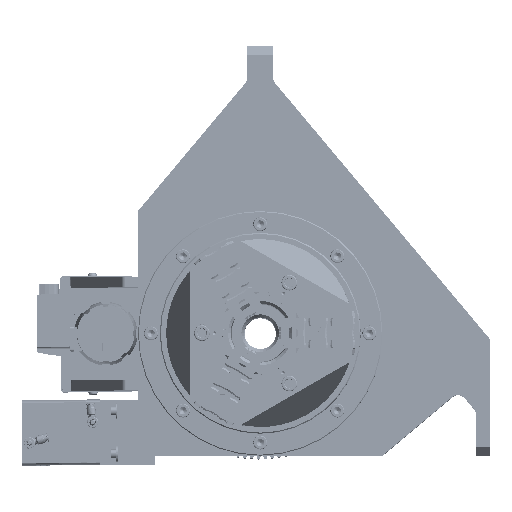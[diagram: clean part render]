
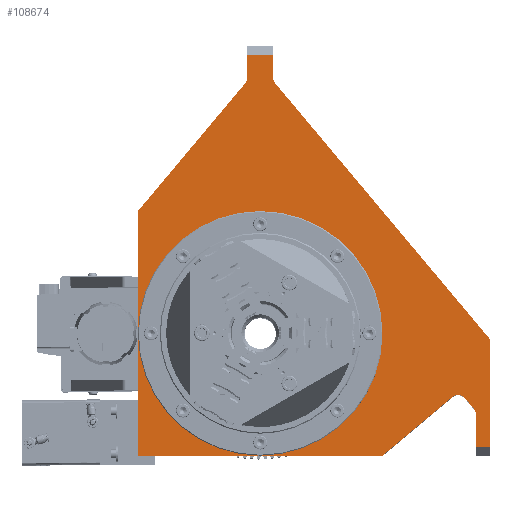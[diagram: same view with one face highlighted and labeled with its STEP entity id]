
A CAD part, top view. The second image highlights one B-rep face of the part: STEP entity #108674.
In plain terms, the highlighted planar face has unit normal (0, 0, 1).
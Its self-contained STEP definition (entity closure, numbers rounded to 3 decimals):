
#6700=FACE_BOUND('',#39267,.T.);
#6701=FACE_BOUND('',#39268,.T.);
#6702=FACE_BOUND('',#39269,.T.);
#6703=FACE_BOUND('',#39270,.T.);
#6704=FACE_BOUND('',#39271,.T.);
#6705=FACE_BOUND('',#39272,.T.);
#6706=FACE_BOUND('',#39273,.T.);
#6707=FACE_BOUND('',#39274,.T.);
#6708=FACE_BOUND('',#39275,.T.);
#10079=PLANE('',#119804);
#15114=LINE('',#187788,#22180);
#15115=LINE('',#187790,#22181);
#15116=LINE('',#187794,#22182);
#15117=LINE('',#187796,#22183);
#15118=LINE('',#187798,#22184);
#15119=LINE('',#187800,#22185);
#15120=LINE('',#187804,#22186);
#15121=LINE('',#187808,#22187);
#15122=LINE('',#187810,#22188);
#15123=LINE('',#187812,#22189);
#15124=LINE('',#187814,#22190);
#15125=LINE('',#187817,#22191);
#22180=VECTOR('',#143788,10.);
#22181=VECTOR('',#143789,10.);
#22182=VECTOR('',#143792,10.);
#22183=VECTOR('',#143793,10.);
#22184=VECTOR('',#143794,10.);
#22185=VECTOR('',#143795,10.);
#22186=VECTOR('',#143798,10.);
#22187=VECTOR('',#143801,10.);
#22188=VECTOR('',#143802,10.);
#22189=VECTOR('',#143803,10.);
#22190=VECTOR('',#143804,10.);
#22191=VECTOR('',#143807,10.);
#31248=FACE_OUTER_BOUND('',#39266,.T.);
#39266=EDGE_LOOP('',(#89877,#89878,#89879,#89880,#89881,#89882,#89883,#89884,
#89885,#89886,#89887,#89888,#89889,#89890,#89891,#89892));
#39267=EDGE_LOOP('',(#89893));
#39268=EDGE_LOOP('',(#89894));
#39269=EDGE_LOOP('',(#89895));
#39270=EDGE_LOOP('',(#89896));
#39271=EDGE_LOOP('',(#89897));
#39272=EDGE_LOOP('',(#89898));
#39273=EDGE_LOOP('',(#89899));
#39274=EDGE_LOOP('',(#89900));
#39275=EDGE_LOOP('',(#89901));
#45760=CIRCLE('',#119803,103.);
#45761=CIRCLE('',#119805,10.);
#45762=CIRCLE('',#119806,10.);
#45763=CIRCLE('',#119807,10.);
#45764=CIRCLE('',#119808,10.);
#45765=CIRCLE('',#119809,4.188);
#45766=CIRCLE('',#119810,4.188);
#45767=CIRCLE('',#119811,4.188);
#45768=CIRCLE('',#119812,4.188);
#45769=CIRCLE('',#119813,4.188);
#45770=CIRCLE('',#119814,4.188);
#45771=CIRCLE('',#119815,4.188);
#45772=CIRCLE('',#119816,4.188);
#54893=VERTEX_POINT('',#187783);
#54894=VERTEX_POINT('',#187786);
#54895=VERTEX_POINT('',#187787);
#54896=VERTEX_POINT('',#187789);
#54897=VERTEX_POINT('',#187791);
#54898=VERTEX_POINT('',#187793);
#54899=VERTEX_POINT('',#187795);
#54900=VERTEX_POINT('',#187797);
#54901=VERTEX_POINT('',#187799);
#54902=VERTEX_POINT('',#187801);
#54903=VERTEX_POINT('',#187803);
#54904=VERTEX_POINT('',#187805);
#54905=VERTEX_POINT('',#187807);
#54906=VERTEX_POINT('',#187809);
#54907=VERTEX_POINT('',#187811);
#54908=VERTEX_POINT('',#187813);
#54909=VERTEX_POINT('',#187815);
#54910=VERTEX_POINT('',#187818);
#54911=VERTEX_POINT('',#187820);
#54912=VERTEX_POINT('',#187822);
#54913=VERTEX_POINT('',#187824);
#54914=VERTEX_POINT('',#187826);
#54915=VERTEX_POINT('',#187828);
#54916=VERTEX_POINT('',#187830);
#54917=VERTEX_POINT('',#187832);
#67500=EDGE_CURVE('',#54893,#54893,#45760,.T.);
#67501=EDGE_CURVE('',#54894,#54895,#15114,.T.);
#67502=EDGE_CURVE('',#54896,#54894,#15115,.T.);
#67503=EDGE_CURVE('',#54897,#54896,#45761,.T.);
#67504=EDGE_CURVE('',#54898,#54897,#15116,.T.);
#67505=EDGE_CURVE('',#54898,#54899,#15117,.T.);
#67506=EDGE_CURVE('',#54899,#54900,#15118,.T.);
#67507=EDGE_CURVE('',#54901,#54900,#15119,.T.);
#67508=EDGE_CURVE('',#54902,#54901,#45762,.T.);
#67509=EDGE_CURVE('',#54903,#54902,#15120,.T.);
#67510=EDGE_CURVE('',#54904,#54903,#45763,.T.);
#67511=EDGE_CURVE('',#54905,#54904,#15121,.T.);
#67512=EDGE_CURVE('',#54906,#54905,#15122,.T.);
#67513=EDGE_CURVE('',#54907,#54906,#15123,.T.);
#67514=EDGE_CURVE('',#54908,#54907,#15124,.T.);
#67515=EDGE_CURVE('',#54909,#54908,#45764,.T.);
#67516=EDGE_CURVE('',#54895,#54909,#15125,.T.);
#67517=EDGE_CURVE('',#54910,#54910,#45765,.T.);
#67518=EDGE_CURVE('',#54911,#54911,#45766,.T.);
#67519=EDGE_CURVE('',#54912,#54912,#45767,.T.);
#67520=EDGE_CURVE('',#54913,#54913,#45768,.T.);
#67521=EDGE_CURVE('',#54914,#54914,#45769,.T.);
#67522=EDGE_CURVE('',#54915,#54915,#45770,.T.);
#67523=EDGE_CURVE('',#54916,#54916,#45771,.T.);
#67524=EDGE_CURVE('',#54917,#54917,#45772,.T.);
#89877=ORIENTED_EDGE('',*,*,#67501,.F.);
#89878=ORIENTED_EDGE('',*,*,#67502,.F.);
#89879=ORIENTED_EDGE('',*,*,#67503,.F.);
#89880=ORIENTED_EDGE('',*,*,#67504,.F.);
#89881=ORIENTED_EDGE('',*,*,#67505,.T.);
#89882=ORIENTED_EDGE('',*,*,#67506,.T.);
#89883=ORIENTED_EDGE('',*,*,#67507,.F.);
#89884=ORIENTED_EDGE('',*,*,#67508,.F.);
#89885=ORIENTED_EDGE('',*,*,#67509,.F.);
#89886=ORIENTED_EDGE('',*,*,#67510,.F.);
#89887=ORIENTED_EDGE('',*,*,#67511,.F.);
#89888=ORIENTED_EDGE('',*,*,#67512,.F.);
#89889=ORIENTED_EDGE('',*,*,#67513,.F.);
#89890=ORIENTED_EDGE('',*,*,#67514,.F.);
#89891=ORIENTED_EDGE('',*,*,#67515,.F.);
#89892=ORIENTED_EDGE('',*,*,#67516,.F.);
#89893=ORIENTED_EDGE('',*,*,#67517,.T.);
#89894=ORIENTED_EDGE('',*,*,#67518,.T.);
#89895=ORIENTED_EDGE('',*,*,#67519,.T.);
#89896=ORIENTED_EDGE('',*,*,#67520,.T.);
#89897=ORIENTED_EDGE('',*,*,#67521,.T.);
#89898=ORIENTED_EDGE('',*,*,#67522,.T.);
#89899=ORIENTED_EDGE('',*,*,#67523,.T.);
#89900=ORIENTED_EDGE('',*,*,#67524,.T.);
#89901=ORIENTED_EDGE('',*,*,#67500,.F.);
#108674=ADVANCED_FACE('',(#31248,#6700,#6701,#6702,#6703,#6704,#6705,#6706,
#6707,#6708),#10079,.T.);
#119803=AXIS2_PLACEMENT_3D('',#187784,#143784,#143785);
#119804=AXIS2_PLACEMENT_3D('',#187785,#143786,#143787);
#119805=AXIS2_PLACEMENT_3D('',#187792,#143790,#143791);
#119806=AXIS2_PLACEMENT_3D('',#187802,#143796,#143797);
#119807=AXIS2_PLACEMENT_3D('',#187806,#143799,#143800);
#119808=AXIS2_PLACEMENT_3D('',#187816,#143805,#143806);
#119809=AXIS2_PLACEMENT_3D('',#187819,#143808,#143809);
#119810=AXIS2_PLACEMENT_3D('',#187821,#143810,#143811);
#119811=AXIS2_PLACEMENT_3D('',#187823,#143812,#143813);
#119812=AXIS2_PLACEMENT_3D('',#187825,#143814,#143815);
#119813=AXIS2_PLACEMENT_3D('',#187827,#143816,#143817);
#119814=AXIS2_PLACEMENT_3D('',#187829,#143818,#143819);
#119815=AXIS2_PLACEMENT_3D('',#187831,#143820,#143821);
#119816=AXIS2_PLACEMENT_3D('',#187833,#143822,#143823);
#143784=DIRECTION('center_axis',(0.,0.,1.));
#143785=DIRECTION('ref_axis',(1.,0.,0.));
#143786=DIRECTION('center_axis',(0.,0.,1.));
#143787=DIRECTION('ref_axis',(1.,0.,0.));
#143788=DIRECTION('',(0.,-1.,0.));
#143789=DIRECTION('',(1.,0.,0.));
#143790=DIRECTION('center_axis',(0.,0.,1.));
#143791=DIRECTION('ref_axis',(-0.342,-0.94,0.));
#143792=DIRECTION('',(0.766,-0.643,0.));
#143793=DIRECTION('',(-1.,0.,0.));
#143794=DIRECTION('',(0.,-1.,0.));
#143795=DIRECTION('',(-0.643,0.766,0.));
#143796=DIRECTION('center_axis',(0.,0.,1.));
#143797=DIRECTION('ref_axis',(0.996,-0.087,0.));
#143798=DIRECTION('',(0.766,0.643,0.));
#143799=DIRECTION('center_axis',(0.,0.,1.));
#143800=DIRECTION('ref_axis',(0.342,-0.94,0.));
#143801=DIRECTION('',(1.,0.,0.));
#143802=DIRECTION('',(0.,1.,0.));
#143803=DIRECTION('',(-1.,0.,0.));
#143804=DIRECTION('',(-0.766,-0.643,0.));
#143805=DIRECTION('center_axis',(0.,0.,1.));
#143806=DIRECTION('ref_axis',(-0.342,0.94,0.));
#143807=DIRECTION('',(-1.,0.,0.));
#143808=DIRECTION('center_axis',(0.,0.,-1.));
#143809=DIRECTION('ref_axis',(1.,0.,0.));
#143810=DIRECTION('center_axis',(0.,0.,-1.));
#143811=DIRECTION('ref_axis',(0.707,0.707,0.));
#143812=DIRECTION('center_axis',(0.,0.,-1.));
#143813=DIRECTION('ref_axis',(0.,1.,0.));
#143814=DIRECTION('center_axis',(0.,0.,-1.));
#143815=DIRECTION('ref_axis',(-0.707,0.707,0.));
#143816=DIRECTION('center_axis',(0.,0.,-1.));
#143817=DIRECTION('ref_axis',(-1.,0.,0.));
#143818=DIRECTION('center_axis',(0.,0.,-1.));
#143819=DIRECTION('ref_axis',(-0.707,-0.707,0.));
#143820=DIRECTION('center_axis',(0.,0.,-1.));
#143821=DIRECTION('ref_axis',(0.,-1.,0.));
#143822=DIRECTION('center_axis',(0.,0.,-1.));
#143823=DIRECTION('ref_axis',(0.707,-0.707,0.));
#187783=CARTESIAN_POINT('',(-103.,0.,286.));
#187784=CARTESIAN_POINT('Origin',(0.,0.,286.));
#187785=CARTESIAN_POINT('Origin',(0.,0.,286.));
#187786=CARTESIAN_POINT('',(318.969,15.,286.));
#187787=CARTESIAN_POINT('',(318.969,-15.,286.));
#187788=CARTESIAN_POINT('',(318.969,-7.5,286.));
#187789=CARTESIAN_POINT('',(292.609,15.,286.));
#187790=CARTESIAN_POINT('',(318.969,15.,286.));
#187791=CARTESIAN_POINT('',(286.181,17.34,286.));
#187792=CARTESIAN_POINT('Origin',(292.609,25.,286.));
#187793=CARTESIAN_POINT('',(140.,140.,286.));
#187794=CARTESIAN_POINT('',(244.884,51.992,286.));
#187795=CARTESIAN_POINT('',(-140.,140.,286.));
#187796=CARTESIAN_POINT('',(140.,140.,286.));
#187797=CARTESIAN_POINT('',(-140.,-140.,286.));
#187798=CARTESIAN_POINT('',(-140.,140.,286.));
#187799=CARTESIAN_POINT('',(-72.74,-220.157,286.));
#187800=CARTESIAN_POINT('',(-115.004,-169.788,286.));
#187801=CARTESIAN_POINT('',(-73.973,-234.245,286.));
#187802=CARTESIAN_POINT('Origin',(-80.401,-226.585,286.));
#187803=CARTESIAN_POINT('',(-86.506,-244.761,286.));
#187804=CARTESIAN_POINT('',(-77.123,-236.888,286.));
#187805=CARTESIAN_POINT('',(-92.934,-247.101,286.));
#187806=CARTESIAN_POINT('Origin',(-92.934,-237.101,286.));
#187807=CARTESIAN_POINT('',(-130.,-247.101,286.));
#187808=CARTESIAN_POINT('',(-88.823,-247.101,286.));
#187809=CARTESIAN_POINT('',(-130.,-263.101,286.));
#187810=CARTESIAN_POINT('',(-130.,-123.55,286.));
#187811=CARTESIAN_POINT('',(-6.706,-263.101,286.));
#187812=CARTESIAN_POINT('',(18.889,-263.101,286.));
#187813=CARTESIAN_POINT('',(286.181,-17.34,286.));
#187814=CARTESIAN_POINT('',(66.738,-201.474,286.));
#187815=CARTESIAN_POINT('',(292.609,-15.,286.));
#187816=CARTESIAN_POINT('Origin',(292.609,-25.,286.));
#187817=CARTESIAN_POINT('',(298.969,-15.,286.));
#187818=CARTESIAN_POINT('',(4.188,125.,286.));
#187819=CARTESIAN_POINT('Origin',(0.,125.,286.));
#187820=CARTESIAN_POINT('',(-85.427,91.35,286.));
#187821=CARTESIAN_POINT('Origin',(-88.388,88.388,286.));
#187822=CARTESIAN_POINT('',(-125.,4.188,286.));
#187823=CARTESIAN_POINT('Origin',(-125.,0.,286.));
#187824=CARTESIAN_POINT('',(-91.35,-85.427,286.));
#187825=CARTESIAN_POINT('Origin',(-88.388,-88.388,286.));
#187826=CARTESIAN_POINT('',(-4.188,-125.,286.));
#187827=CARTESIAN_POINT('Origin',(0.,-125.,286.));
#187828=CARTESIAN_POINT('',(85.427,-91.35,286.));
#187829=CARTESIAN_POINT('Origin',(88.388,-88.388,286.));
#187830=CARTESIAN_POINT('',(125.,-4.188,286.));
#187831=CARTESIAN_POINT('Origin',(125.,0.,286.));
#187832=CARTESIAN_POINT('',(91.35,85.427,286.));
#187833=CARTESIAN_POINT('Origin',(88.388,88.388,286.));
